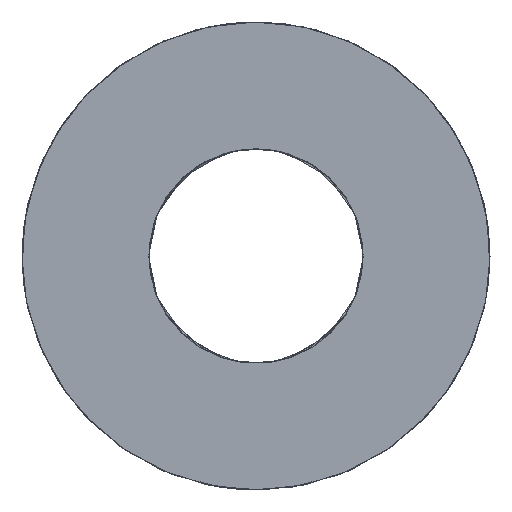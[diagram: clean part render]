
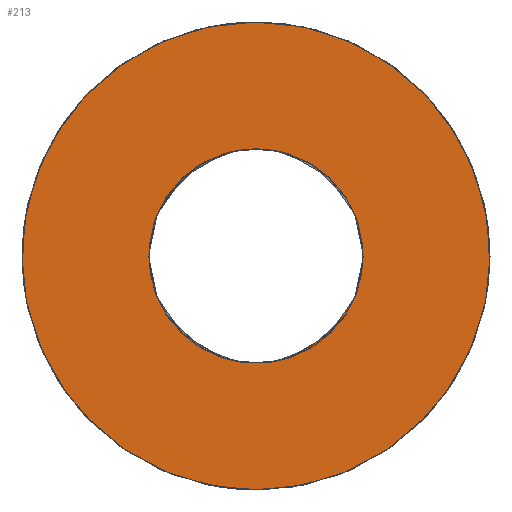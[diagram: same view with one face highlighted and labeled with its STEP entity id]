
A CAD part, left-side view. The second image highlights one B-rep face of the part: STEP entity #213.
In plain terms, the highlighted planar face has unit normal (1, 0, 0).
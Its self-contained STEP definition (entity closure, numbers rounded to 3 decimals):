
#213=ADVANCED_FACE('',(#229,#221),#525,.T.);
#221=FACE_BOUND('',#244,.T.);
#229=FACE_OUTER_BOUND('',#243,.T.);
#243=EDGE_LOOP('',(#271));
#244=EDGE_LOOP('',(#272));
#271=ORIENTED_EDGE('',*,*,#431,.T.);
#272=ORIENTED_EDGE('',*,*,#432,.T.);
#311=PCURVE('',#525,#351);
#312=PCURVE('',#525,#352);
#351=DEFINITIONAL_REPRESENTATION('',(#468),#1098);
#352=DEFINITIONAL_REPRESENTATION('',(#470),#1098);
#391=SURFACE_CURVE('',#467,(#311),.PCURVE_S1.);
#392=SURFACE_CURVE('',#469,(#312),.PCURVE_S1.);
#431=EDGE_CURVE('',#503,#503,#391,.T.);
#432=EDGE_CURVE('',#504,#504,#392,.T.);
#467=(
BOUNDED_CURVE()
B_SPLINE_CURVE(2,(#847,#848,#849,#850,#851,#852,#853,#854,#855),
 .UNSPECIFIED.,.T.,.F.)
B_SPLINE_CURVE_WITH_KNOTS((3,2,2,2,3),(0.,1.571,3.142,
4.712,6.283),.UNSPECIFIED.)
CURVE()
GEOMETRIC_REPRESENTATION_ITEM()
RATIONAL_B_SPLINE_CURVE((1.,0.707,1.,0.707,1.,0.707,
1.,0.707,1.))
REPRESENTATION_ITEM('')
);
#468=(
BOUNDED_CURVE()
B_SPLINE_CURVE(2,(#856,#857,#858,#859,#860,#861,#862,#863,#864),
 .UNSPECIFIED.,.T.,.F.)
B_SPLINE_CURVE_WITH_KNOTS((3,2,2,2,3),(0.,1.571,3.142,
4.712,6.283),.UNSPECIFIED.)
CURVE()
GEOMETRIC_REPRESENTATION_ITEM()
RATIONAL_B_SPLINE_CURVE((1.,0.707,1.,0.707,1.,0.707,
1.,0.707,1.))
REPRESENTATION_ITEM('')
);
#469=(
BOUNDED_CURVE()
B_SPLINE_CURVE(2,(#865,#866,#867,#868,#869,#870,#871,#872,#873),
 .UNSPECIFIED.,.T.,.F.)
B_SPLINE_CURVE_WITH_KNOTS((3,2,2,2,3),(3.142,4.712,
6.283,7.854,9.425),.UNSPECIFIED.)
CURVE()
GEOMETRIC_REPRESENTATION_ITEM()
RATIONAL_B_SPLINE_CURVE((1.,0.707,1.,0.707,1.,0.707,
1.,0.707,1.))
REPRESENTATION_ITEM('')
);
#470=(
BOUNDED_CURVE()
B_SPLINE_CURVE(2,(#874,#875,#876,#877,#878,#879,#880,#881,#882),
 .UNSPECIFIED.,.T.,.F.)
B_SPLINE_CURVE_WITH_KNOTS((3,2,2,2,3),(3.142,4.712,
6.283,7.854,9.425),.UNSPECIFIED.)
CURVE()
GEOMETRIC_REPRESENTATION_ITEM()
RATIONAL_B_SPLINE_CURVE((1.,0.707,1.,0.707,1.,0.707,
1.,0.707,1.))
REPRESENTATION_ITEM('')
);
#503=VERTEX_POINT('',#845);
#504=VERTEX_POINT('',#846);
#525=PLANE('',#572);
#572=AXIS2_PLACEMENT_3D('',#844,#584,$);
#584=DIRECTION('',(1.,0.,0.));
#844=CARTESIAN_POINT('',(-770.,-531.,24.));
#845=CARTESIAN_POINT('',(-770.,-519.,30.));
#846=CARTESIAN_POINT('',(-770.,-527.75,30.));
#847=CARTESIAN_POINT('',(-770.,-519.,30.));
#848=CARTESIAN_POINT('',(-770.,-519.,36.));
#849=CARTESIAN_POINT('',(-770.,-525.,36.));
#850=CARTESIAN_POINT('',(-770.,-531.,36.));
#851=CARTESIAN_POINT('',(-770.,-531.,30.));
#852=CARTESIAN_POINT('',(-770.,-531.,24.));
#853=CARTESIAN_POINT('',(-770.,-525.,24.));
#854=CARTESIAN_POINT('',(-770.,-519.,24.));
#855=CARTESIAN_POINT('',(-770.,-519.,30.));
#856=CARTESIAN_POINT('',(1.,0.5));
#857=CARTESIAN_POINT('',(1.,1.));
#858=CARTESIAN_POINT('',(0.5,1.));
#859=CARTESIAN_POINT('',(0.,1.));
#860=CARTESIAN_POINT('',(0.,0.5));
#861=CARTESIAN_POINT('',(0.,0.));
#862=CARTESIAN_POINT('',(0.5,0.));
#863=CARTESIAN_POINT('',(1.,0.));
#864=CARTESIAN_POINT('',(1.,0.5));
#865=CARTESIAN_POINT('',(-770.,-527.75,30.));
#866=CARTESIAN_POINT('',(-770.,-527.75,32.75));
#867=CARTESIAN_POINT('',(-770.,-525.,32.75));
#868=CARTESIAN_POINT('',(-770.,-522.25,32.75));
#869=CARTESIAN_POINT('',(-770.,-522.25,30.));
#870=CARTESIAN_POINT('',(-770.,-522.25,27.25));
#871=CARTESIAN_POINT('',(-770.,-525.,27.25));
#872=CARTESIAN_POINT('',(-770.,-527.75,27.25));
#873=CARTESIAN_POINT('',(-770.,-527.75,30.));
#874=CARTESIAN_POINT('',(0.271,0.5));
#875=CARTESIAN_POINT('',(0.271,0.729));
#876=CARTESIAN_POINT('',(0.5,0.729));
#877=CARTESIAN_POINT('',(0.729,0.729));
#878=CARTESIAN_POINT('',(0.729,0.5));
#879=CARTESIAN_POINT('',(0.729,0.271));
#880=CARTESIAN_POINT('',(0.5,0.271));
#881=CARTESIAN_POINT('',(0.271,0.271));
#882=CARTESIAN_POINT('',(0.271,0.5));
#1098=(
GEOMETRIC_REPRESENTATION_CONTEXT(2)
PARAMETRIC_REPRESENTATION_CONTEXT()
REPRESENTATION_CONTEXT('pspace','')
);
